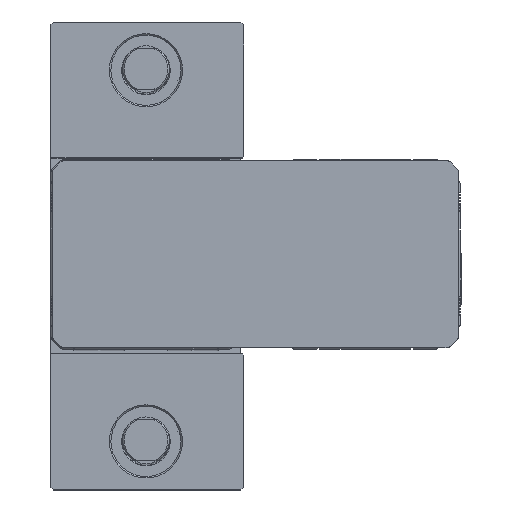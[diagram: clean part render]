
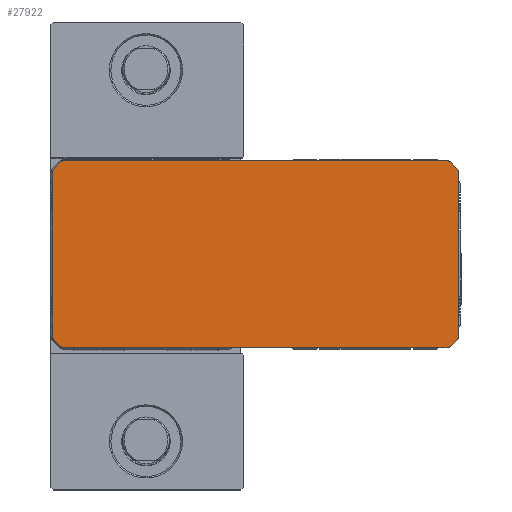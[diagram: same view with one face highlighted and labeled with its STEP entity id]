
A CAD part, top view. The second image highlights one B-rep face of the part: STEP entity #27922.
In plain terms, the highlighted planar face has unit normal (0, 0, 1).
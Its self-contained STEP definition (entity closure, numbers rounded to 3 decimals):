
#51 = CIRCLE ( 'NONE', #7945, 1.5 ) ;
#627 = EDGE_CURVE ( 'NONE', #2373, #4873, #5435, .T. ) ;
#695 = DIRECTION ( 'NONE',  ( 0., 0., 1. ) ) ;
#810 = EDGE_CURVE ( 'NONE', #30761, #2419, #33891, .T. ) ;
#1085 = VERTEX_POINT ( 'NONE', #14452 ) ;
#1336 = ORIENTED_EDGE ( 'NONE', *, *, #627, .T. ) ;
#1501 = CIRCLE ( 'NONE', #29213, 1.5 ) ;
#1516 = DIRECTION ( 'NONE',  ( 1., 0., 0. ) ) ;
#2043 = DIRECTION ( 'NONE',  ( 0., 0., 1. ) ) ;
#2117 = CARTESIAN_POINT ( 'NONE',  ( 103., 32., 352.5 ) ) ;
#2221 = EDGE_CURVE ( 'NONE', #16582, #18834, #29342, .T. ) ;
#2373 = VERTEX_POINT ( 'NONE', #12985 ) ;
#2419 = VERTEX_POINT ( 'NONE', #13282 ) ;
#2492 = VECTOR ( 'NONE', #1516, 1000. ) ;
#2717 = ORIENTED_EDGE ( 'NONE', *, *, #37650, .T. ) ;
#2795 = CARTESIAN_POINT ( 'NONE',  ( -30.5, 28., 352.5 ) ) ;
#3474 = CARTESIAN_POINT ( 'NONE',  ( -32., -28., 352.5 ) ) ;
#4346 = ORIENTED_EDGE ( 'NONE', *, *, #40759, .T. ) ;
#4873 = VERTEX_POINT ( 'NONE', #27653 ) ;
#5435 = CIRCLE ( 'NONE', #38712, 1.5 ) ;
#5474 = CARTESIAN_POINT ( 'NONE',  ( -29.061, 31.561, 352.5 ) ) ;
#5596 = LINE ( 'NONE', #8558, #42853 ) ;
#5918 = EDGE_CURVE ( 'NONE', #1085, #27712, #33241, .T. ) ;
#6216 = CARTESIAN_POINT ( 'NONE',  ( 104.061, 31.561, 352.5 ) ) ;
#6218 = EDGE_LOOP ( 'NONE', ( #32389, #17505, #2717, #42679, #27677, #42580, #1336, #14824, #12831, #7113, #27316, #10522, #11464, #28658, #4346, #32694 ) ) ;
#6223 = LINE ( 'NONE', #5474, #22619 ) ;
#6338 = DIRECTION ( 'NONE',  ( 1., 0., 0. ) ) ;
#6590 = EDGE_CURVE ( 'NONE', #35130, #30761, #38631, .T. ) ;
#6639 = VECTOR ( 'NONE', #44918, 1000. ) ;
#7113 = ORIENTED_EDGE ( 'NONE', *, *, #40812, .T. ) ;
#7232 = CARTESIAN_POINT ( 'NONE',  ( -29.061, -31.561, 352.5 ) ) ;
#7619 = CARTESIAN_POINT ( 'NONE',  ( -30.5, -28., 352.5 ) ) ;
#7773 = DIRECTION ( 'NONE',  ( 1., 0., 0. ) ) ;
#7945 = AXIS2_PLACEMENT_3D ( 'NONE', #19086, #43617, #22609 ) ;
#8558 = CARTESIAN_POINT ( 'NONE',  ( -31.561, -29.061, 352.5 ) ) ;
#8836 = LINE ( 'NONE', #20543, #15956 ) ;
#9733 = DIRECTION ( 'NONE',  ( 0., 0., 1. ) ) ;
#9759 = CARTESIAN_POINT ( 'NONE',  ( 105.5, 28., 352.5 ) ) ;
#9890 = FACE_OUTER_BOUND ( 'NONE', #6218, .T. ) ;
#10183 = VECTOR ( 'NONE', #32132, 1000. ) ;
#10522 = ORIENTED_EDGE ( 'NONE', *, *, #34252, .T. ) ;
#10691 = VERTEX_POINT ( 'NONE', #6216 ) ;
#11464 = ORIENTED_EDGE ( 'NONE', *, *, #5918, .T. ) ;
#11796 = VERTEX_POINT ( 'NONE', #2117 ) ;
#12831 = ORIENTED_EDGE ( 'NONE', *, *, #25986, .T. ) ;
#12985 = CARTESIAN_POINT ( 'NONE',  ( 106.561, -29.061, 352.5 ) ) ;
#13282 = CARTESIAN_POINT ( 'NONE',  ( -31.561, -29.061, 352.5 ) ) ;
#13289 = DIRECTION ( 'NONE',  ( 1., 0., 0. ) ) ;
#13595 = EDGE_CURVE ( 'NONE', #4873, #45337, #17586, .T. ) ;
#13660 = AXIS2_PLACEMENT_3D ( 'NONE', #2795, #27283, #6338 ) ;
#14283 = AXIS2_PLACEMENT_3D ( 'NONE', #39747, #18741, #43276 ) ;
#14321 = DIRECTION ( 'NONE',  ( 0., 1., 0. ) ) ;
#14452 = CARTESIAN_POINT ( 'NONE',  ( -28., 32., 352.5 ) ) ;
#14646 = CARTESIAN_POINT ( 'NONE',  ( 104.061, -31.561, 352.5 ) ) ;
#14824 = ORIENTED_EDGE ( 'NONE', *, *, #13595, .T. ) ;
#15423 = VECTOR ( 'NONE', #14321, 1000. ) ;
#15704 = DIRECTION ( 'NONE',  ( 0., 0., 1. ) ) ;
#15800 = VERTEX_POINT ( 'NONE', #7232 ) ;
#15956 = VECTOR ( 'NONE', #45056, 1000. ) ;
#16582 = VERTEX_POINT ( 'NONE', #36259 ) ;
#16688 = AXIS2_PLACEMENT_3D ( 'NONE', #36680, #15704, #40230 ) ;
#16979 = CARTESIAN_POINT ( 'NONE',  ( 106.561, 29.061, 352.5 ) ) ;
#17030 = VERTEX_POINT ( 'NONE', #24860 ) ;
#17138 = EDGE_CURVE ( 'NONE', #10691, #11796, #42459, .T. ) ;
#17505 = ORIENTED_EDGE ( 'NONE', *, *, #27555, .T. ) ;
#17586 = LINE ( 'NONE', #31755, #15423 ) ;
#18741 = DIRECTION ( 'NONE',  ( 0., 0., 1. ) ) ;
#18834 = VERTEX_POINT ( 'NONE', #41418 ) ;
#19086 = CARTESIAN_POINT ( 'NONE',  ( -28., -30.5, 352.5 ) ) ;
#19794 = CARTESIAN_POINT ( 'NONE',  ( -32., 28., 352.5 ) ) ;
#19974 = VECTOR ( 'NONE', #39210, 1000. ) ;
#20543 = CARTESIAN_POINT ( 'NONE',  ( 106.561, 29.061, 352.5 ) ) ;
#21657 = CARTESIAN_POINT ( 'NONE',  ( 105.5, -28., 352.5 ) ) ;
#22609 = DIRECTION ( 'NONE',  ( 1., 0., 0. ) ) ;
#22619 = VECTOR ( 'NONE', #40546, 1000. ) ;
#22755 = VERTEX_POINT ( 'NONE', #14646 ) ;
#22989 = EDGE_CURVE ( 'NONE', #27712, #17030, #6223, .T. ) ;
#23028 = CARTESIAN_POINT ( 'NONE',  ( 103., -30.5, 352.5 ) ) ;
#24860 = CARTESIAN_POINT ( 'NONE',  ( -31.561, 29.061, 352.5 ) ) ;
#25185 = DIRECTION ( 'NONE',  ( 1., 0., 0. ) ) ;
#25986 = EDGE_CURVE ( 'NONE', #45337, #37301, #1501, .T. ) ;
#26544 = DIRECTION ( 'NONE',  ( 1., 0., 0. ) ) ;
#27283 = DIRECTION ( 'NONE',  ( 0., 0., 1. ) ) ;
#27316 = ORIENTED_EDGE ( 'NONE', *, *, #17138, .T. ) ;
#27555 = EDGE_CURVE ( 'NONE', #2419, #15800, #5596, .T. ) ;
#27653 = CARTESIAN_POINT ( 'NONE',  ( 107., -28., 352.5 ) ) ;
#27677 = ORIENTED_EDGE ( 'NONE', *, *, #40654, .T. ) ;
#27712 = VERTEX_POINT ( 'NONE', #37493 ) ;
#27922 = ADVANCED_FACE ( 'NONE', ( #9890 ), #42716, .T. ) ;
#28658 = ORIENTED_EDGE ( 'NONE', *, *, #22989, .T. ) ;
#28731 = DIRECTION ( 'NONE',  ( 0., 0., 1. ) ) ;
#29213 = AXIS2_PLACEMENT_3D ( 'NONE', #9759, #34270, #13289 ) ;
#29342 = LINE ( 'NONE', #36588, #2492 ) ;
#30733 = CARTESIAN_POINT ( 'NONE',  ( -28., 30.5, 352.5 ) ) ;
#30761 = VERTEX_POINT ( 'NONE', #3474 ) ;
#30938 = CARTESIAN_POINT ( 'NONE',  ( 107., 28., 352.5 ) ) ;
#31755 = CARTESIAN_POINT ( 'NONE',  ( 107., -28., 352.5 ) ) ;
#32132 = DIRECTION ( 'NONE',  ( -1., 0., 0. ) ) ;
#32389 = ORIENTED_EDGE ( 'NONE', *, *, #810, .T. ) ;
#32694 = ORIENTED_EDGE ( 'NONE', *, *, #6590, .T. ) ;
#33241 = CIRCLE ( 'NONE', #36822, 1.5 ) ;
#33891 = CIRCLE ( 'NONE', #16688, 1.5 ) ;
#34242 = DIRECTION ( 'NONE',  ( 1., 0., 0. ) ) ;
#34252 = EDGE_CURVE ( 'NONE', #11796, #1085, #44179, .T. ) ;
#34270 = DIRECTION ( 'NONE',  ( 0., 0., 1. ) ) ;
#34557 = LINE ( 'NONE', #41407, #6639 ) ;
#35130 = VERTEX_POINT ( 'NONE', #19794 ) ;
#35650 = AXIS2_PLACEMENT_3D ( 'NONE', #23028, #2043, #26544 ) ;
#35656 = CIRCLE ( 'NONE', #13660, 1.5 ) ;
#36259 = CARTESIAN_POINT ( 'NONE',  ( -28., -32., 352.5 ) ) ;
#36588 = CARTESIAN_POINT ( 'NONE',  ( -28., -32., 352.5 ) ) ;
#36680 = CARTESIAN_POINT ( 'NONE',  ( -30.5, -28., 352.5 ) ) ;
#36822 = AXIS2_PLACEMENT_3D ( 'NONE', #30733, #9733, #34242 ) ;
#37301 = VERTEX_POINT ( 'NONE', #16979 ) ;
#37493 = CARTESIAN_POINT ( 'NONE',  ( -29.061, 31.561, 352.5 ) ) ;
#37650 = EDGE_CURVE ( 'NONE', #15800, #16582, #51, .T. ) ;
#38631 = LINE ( 'NONE', #42751, #19974 ) ;
#38686 = AXIS2_PLACEMENT_3D ( 'NONE', #7619, #28731, #7773 ) ;
#38712 = AXIS2_PLACEMENT_3D ( 'NONE', #21657, #695, #25185 ) ;
#39210 = DIRECTION ( 'NONE',  ( 0., -1., 0. ) ) ;
#39747 = CARTESIAN_POINT ( 'NONE',  ( 103., 30.5, 352.5 ) ) ;
#40230 = DIRECTION ( 'NONE',  ( 1., 0., 0. ) ) ;
#40546 = DIRECTION ( 'NONE',  ( -0.707, -0.707, 0. ) ) ;
#40654 = EDGE_CURVE ( 'NONE', #18834, #22755, #41189, .T. ) ;
#40759 = EDGE_CURVE ( 'NONE', #17030, #35130, #35656, .T. ) ;
#40792 = EDGE_CURVE ( 'NONE', #22755, #2373, #34557, .T. ) ;
#40812 = EDGE_CURVE ( 'NONE', #37301, #10691, #8836, .T. ) ;
#41189 = CIRCLE ( 'NONE', #35650, 1.5 ) ;
#41407 = CARTESIAN_POINT ( 'NONE',  ( 104.061, -31.561, 352.5 ) ) ;
#41418 = CARTESIAN_POINT ( 'NONE',  ( 103., -32., 352.5 ) ) ;
#42459 = CIRCLE ( 'NONE', #14283, 1.5 ) ;
#42580 = ORIENTED_EDGE ( 'NONE', *, *, #40792, .T. ) ;
#42679 = ORIENTED_EDGE ( 'NONE', *, *, #2221, .T. ) ;
#42716 = PLANE ( 'NONE',  #38686 ) ;
#42730 = CARTESIAN_POINT ( 'NONE',  ( 103., 32., 352.5 ) ) ;
#42751 = CARTESIAN_POINT ( 'NONE',  ( -32., 28., 352.5 ) ) ;
#42853 = VECTOR ( 'NONE', #43632, 1000. ) ;
#43276 = DIRECTION ( 'NONE',  ( 1., 0., 0. ) ) ;
#43617 = DIRECTION ( 'NONE',  ( 0., 0., 1. ) ) ;
#43632 = DIRECTION ( 'NONE',  ( 0.707, -0.707, 0. ) ) ;
#44179 = LINE ( 'NONE', #42730, #10183 ) ;
#44918 = DIRECTION ( 'NONE',  ( 0.707, 0.707, 0. ) ) ;
#45056 = DIRECTION ( 'NONE',  ( -0.707, 0.707, 0. ) ) ;
#45337 = VERTEX_POINT ( 'NONE', #30938 ) ;
